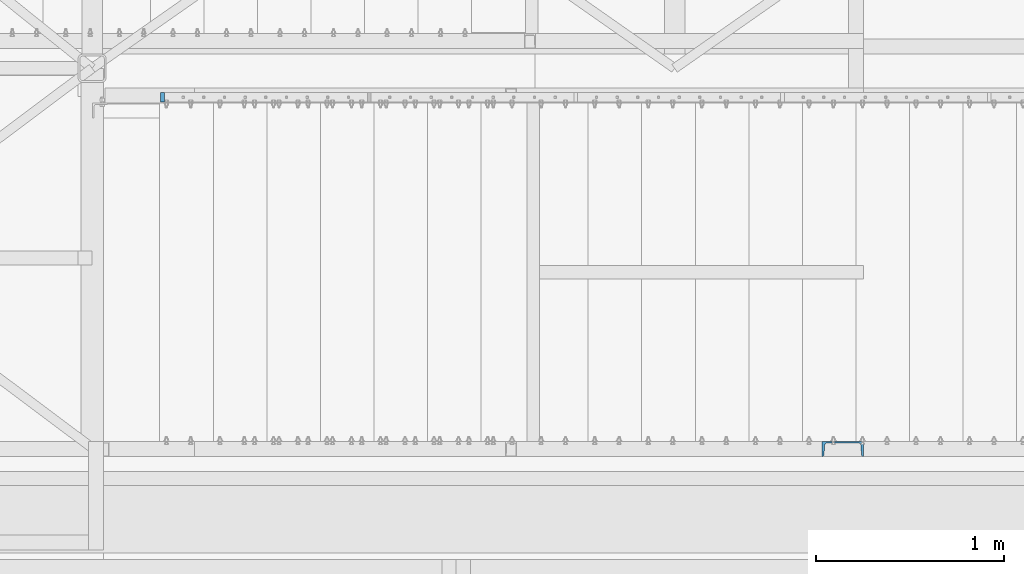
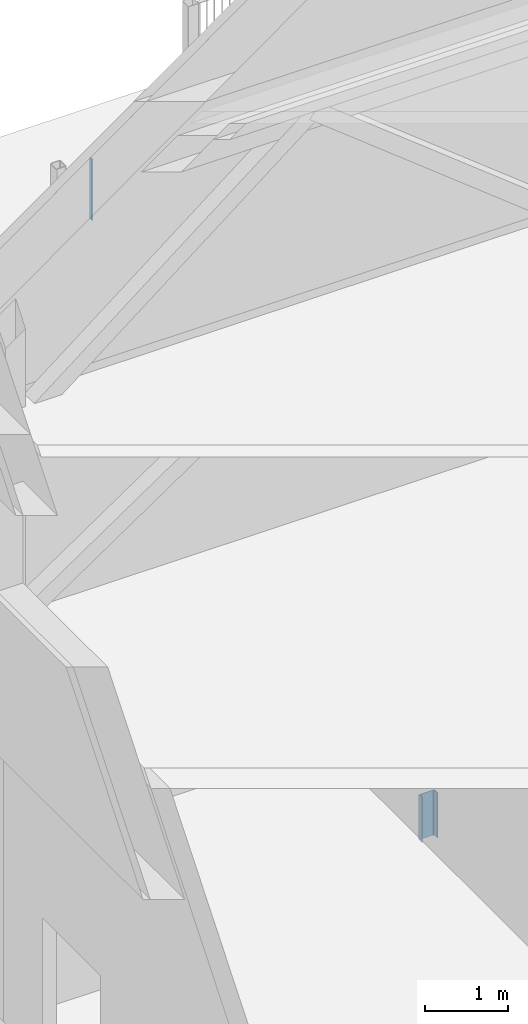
# One storey, part 17 of 78: 2 columns, 2 elements without a shape of their own.
"""IFC2X3 building model written with IfcOpenShell, lengths in millimetres."""

import ifcopenshell
import ifcopenshell.guid

model = None  # the IFC model being written
_history = None  # IfcOwnerHistory: only IFC2X3 demands one
_inside = {}  # id of a spatial element -> (the spatial element, [elements in it])
_under = {}  # id of a project, library or spatial element -> (it, [spatial elements below it])
_declared = {}  # id of a project -> (the project, [libraries it declares])
_typed = {}  # id of a type object -> (the type object, [elements of that type])
_made_of = {}  # id of a material, layer set ... -> (it, [elements and type objects made of it])


def new_model(schema):
    """Start an empty IFC model of exactly this schema.

    Asked for "IFC4X3", IfcOpenShell would pick the latest addendum, in which some entities
    have other attributes; the version numbers below select the first issue.
    IFC2X3 requires an IfcOwnerHistory on every rooted entity: one is made here for all.
    """
    global model, _history
    if schema == "IFC4X3":
        model = ifcopenshell.file(schema_version=(4, 3, 0, 0))
    else:
        model = ifcopenshell.file(schema=schema)
    _inside.clear()
    _under.clear()
    _declared.clear()
    _typed.clear()
    _made_of.clear()
    _history = None
    if model.schema == "IFC2X3":
        org = make("IfcOrganization", Name="unknown")
        user = make(
            "IfcPersonAndOrganization",
            ThePerson=make("IfcPerson", FamilyName="unknown"),
            TheOrganization=org,
        )
        app = make(
            "IfcApplication",
            ApplicationDeveloper=org,
            Version="unknown",
            ApplicationFullName="unknown",
            ApplicationIdentifier="unknown",
        )
        _history = make(
            "IfcOwnerHistory",
            OwningUser=user,
            OwningApplication=app,
            ChangeAction="ADDED",
            CreationDate=0,
        )
    return model


def make(cls, **values):
    """One entity of the class cls with the attributes given. An attribute that is None is left unset."""
    return model.create_entity(
        cls, **{name: value for name, value in values.items() if value is not None}
    )


def rooted(cls, **values):
    """An entity with a GlobalId (a new one), such as an element, a storey or a relation."""
    return make(cls, GlobalId=ifcopenshell.guid.new(), OwnerHistory=_history, **values)


def si_unit(unit_type, name, prefix=None):
    """IfcSIUnit, for example si_unit("LENGTHUNIT", "METRE", prefix="MILLI")."""
    return make("IfcSIUnit", UnitType=unit_type, Prefix=prefix, Name=name)


def assignment(units):
    """IfcUnitAssignment: the units of a project."""
    return None if units is None else make("IfcUnitAssignment", Units=units)


def point(xyz):
    """IfcCartesianPoint."""
    return None if xyz is None else make("IfcCartesianPoint", Coordinates=xyz)


def direction(xyz):
    """IfcDirection."""
    return None if xyz is None else make("IfcDirection", DirectionRatios=xyz)


def frame(location, z_axis=None, x_axis=None):
    """IfcAxis2Placement3D, a coordinate frame: its origin and axes. An axis left out is left unset."""
    return make(
        "IfcAxis2Placement3D",
        Location=point(location),
        Axis=direction(z_axis),
        RefDirection=direction(x_axis),
    )


def frame_2d(location, x_axis=None):
    """IfcAxis2Placement2D, a coordinate frame in the plane: its origin and x axis."""
    return make(
        "IfcAxis2Placement2D", Location=point(location), RefDirection=direction(x_axis)
    )


def origin_with_axes():
    """The frame at (0, 0, 0) with the z axis (0, 0, 1) and the x axis (1, 0, 0) written out."""
    return frame((0.0, 0.0, 0.0), z_axis=(0.0, 0.0, 1.0), x_axis=(1.0, 0.0, 0.0))


def origin_2d_with_axis():
    """The frame at (0, 0) in the plane with the x axis (1, 0) written out."""
    return frame_2d((0.0, 0.0), x_axis=(1.0, 0.0))


def place(relative_to, where):
    """IfcLocalPlacement: puts the frame where relative to a parent placement (None: the world)."""
    return make(
        "IfcLocalPlacement", PlacementRelTo=relative_to, RelativePlacement=where
    )


def context(
    kind, dimensions, precision=None, world=None, true_north=None, identifier=None
):
    """IfcGeometricRepresentationContext, for example the 3D "Model" context."""
    return make(
        "IfcGeometricRepresentationContext",
        ContextIdentifier=identifier,
        ContextType=kind,
        CoordinateSpaceDimension=dimensions,
        Precision=precision,
        WorldCoordinateSystem=world,
        TrueNorth=true_north,
    )


def subcontext(parent, identifier, kind, view, scale=None):
    """IfcGeometricRepresentationSubContext, for example "Body" below "Model"."""
    return make(
        "IfcGeometricRepresentationSubContext",
        ContextIdentifier=identifier,
        ContextType=kind,
        ParentContext=parent,
        TargetScale=scale,
        TargetView=view,
    )


def project(units=None, contexts=None):
    """IfcProject with its units and contexts."""
    return rooted(
        "IfcProject",
        Name="project",
        RepresentationContexts=contexts,
        UnitsInContext=assignment(units),
    )


def spatial(cls, under=None, at=None, **own):
    """A site, building, storey or space (cls), placed at a placement, below another one or the project."""
    s = rooted(cls, ObjectPlacement=at, **own)
    if under is not None:
        _under.setdefault(under.id(), (under, []))[1].append(s)
    return s


def profile(cls, at=None, kind="AREA", **sizes):
    """A parametric profile (cls). Its sizes go by their IFC names, for example OverallWidth=200.0."""
    return make(cls, ProfileType=kind, Position=at, **sizes)


def rectangle(**sizes):
    """IfcRectangleProfileDef."""
    return profile("IfcRectangleProfileDef", **sizes)


def u_section(**sizes):
    """IfcUShapeProfileDef."""
    return profile("IfcUShapeProfileDef", **sizes)


def extrude(swept, where, along, depth):
    """IfcExtrudedAreaSolid: the profile swept, set in the frame where, extruded along a direction by depth."""
    return make(
        "IfcExtrudedAreaSolid",
        SweptArea=swept,
        Position=where,
        ExtrudedDirection=direction(along),
        Depth=depth,
    )


def shape(context_of_items, identifier, shape_type, items):
    """IfcShapeRepresentation: the items that make up one representation, for example the "Body"."""
    return make(
        "IfcShapeRepresentation",
        ContextOfItems=context_of_items,
        RepresentationIdentifier=identifier,
        RepresentationType=shape_type,
        Items=items,
    )


def material(Name=None, Category=None):
    """IfcMaterial."""
    return make("IfcMaterial", Name=Name, Category=Category)


def made_of(thing, what):
    """Note that an element or type object is made of a material, layer set ...; save() writes the relation."""
    if what is not None:
        _made_of.setdefault(what.id(), (what, []))[1].append(thing)
    return thing


def type_object(cls, material=None, **own):
    """A type object (cls), such as IfcWallType, which elements share."""
    return made_of(rooted(cls, **own), material)


def element(
    cls,
    number,
    at=None,
    inside=None,
    cuts=None,
    type_object=None,
    material=None,
    context=None,
    identifier="Body",
    shape_type=None,
    held_by="IfcProductDefinitionShape",
    body=None,
    shapes=None,
    **own,
):
    """One element of the class cls, such as IfcWall. Its Tag is "e" and its number.

    at: its placement. inside: the storey or other place that contains it. cuts: it is an
    opening in that element (IfcRelVoidsElement). A single representation is given by context,
    identifier, shape_type and body (its items); several are given by shapes. held_by: the class
    of the entity that holds the representations. save() writes the other relations.
    """
    e = rooted(cls, Tag="e%d" % number, ObjectPlacement=at, **own)
    if body is not None:
        shapes = [shape(context, identifier, shape_type, body)]
    if shapes is not None:
        e.Representation = make(held_by, Representations=shapes)
    if inside is not None:
        _inside.setdefault(inside.id(), (inside, []))[1].append(e)
    if cuts is not None:
        rooted(
            "IfcRelVoidsElement", RelatingBuildingElement=cuts, RelatedOpeningElement=e
        )
    if type_object is not None:
        _typed.setdefault(type_object.id(), (type_object, []))[1].append(e)
    return made_of(e, material)


def aggregate(whole, parts):
    """IfcRelAggregates: a whole, such as a stair, and the parts it consists of."""
    return rooted("IfcRelAggregates", RelatingObject=whole, RelatedObjects=parts)


def save(model, path):
    """Write the relations noted so far, then the file.

    IfcRelAggregates (storeys below a building ...), IfcRelContainedInSpatialStructure (elements
    in a storey), IfcRelDefinesByType, IfcRelAssociatesMaterial and IfcRelDeclares: one each for
    every whole, place, type object, material and project.
    """
    for whole, parts in _under.values():
        aggregate(whole, parts)
    for where, things in _inside.values():
        rooted(
            "IfcRelContainedInSpatialStructure",
            RelatedElements=things,
            RelatingStructure=where,
        )
    for kind, things in _typed.values():
        rooted("IfcRelDefinesByType", RelatedObjects=things, RelatingType=kind)
    for what, things in _made_of.values():
        rooted("IfcRelAssociatesMaterial", RelatedObjects=things, RelatingMaterial=what)
    for by, libraries in _declared.values():
        rooted("IfcRelDeclares", RelatingContext=by, RelatedDefinitions=libraries)
    model.write(path)


model = new_model("IFC2X3")

# Units and contexts
model_context = context("Model", 3, precision=1e-05, world=origin_with_axes())
body_context = subcontext(model_context, "Body", "Model", "MODEL_VIEW")
ifc_project = project(units=[si_unit("LENGTHUNIT", "METRE", prefix="MILLI"), si_unit("AREAUNIT", "SQUARE_METRE"), si_unit("VOLUMEUNIT", "CUBIC_METRE"), si_unit("MASSUNIT", "GRAM", prefix="KILO"), si_unit("TIMEUNIT", "SECOND"), si_unit("PLANEANGLEUNIT", "RADIAN"), si_unit("SOLIDANGLEUNIT", "STERADIAN"), si_unit("THERMODYNAMICTEMPERATUREUNIT", "DEGREE_CELSIUS"), si_unit("LUMINOUSINTENSITYUNIT", "LUMEN")], contexts=[model_context])

# Site, building, storey
site_placement = place(None, origin_with_axes())
site = spatial("IfcSite", under=ifc_project, at=site_placement, Name="Site", CompositionType="ELEMENT")
building_placement = place(site_placement, origin_with_axes())
building = spatial("IfcBuilding", under=site, at=building_placement, Name="Undefined", CompositionType="ELEMENT")
storey_placement = place(building_placement, origin_with_axes())
storey = spatial("IfcBuildingStorey", under=building, at=storey_placement, Name="Undefined", CompositionType="ELEMENT", Elevation=0.0)

# Assembly, column
assembly_1_placement = place(storey_placement, origin_with_axes())
assembly_1 = element("IfcElementAssembly", 1, at=assembly_1_placement, inside=storey, Name="MAIN_COURANTE", AssemblyPlace="NOTDEFINED", PredefinedType="RIGID_FRAME")
ifc_material_1 = material(Name="STEEL/S235JR")
column_type_1 = type_object("IfcColumnType", Name="PL20*50", PredefinedType="NOTDEFINED")
column_1_placement = place(assembly_1_placement, frame((-4327.00571560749, 30592.9999997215, 156858.011311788), z_axis=(0.0, 0.0, 1.0), x_axis=(0.0, -1.0, 0.0)))
column_1 = element("IfcColumn", 2, at=column_1_placement, type_object=column_type_1, material=ifc_material_1, Name="MONTANT", ObjectType="PL20*50", context=body_context, shape_type="SweptSolid", body=[
    extrude(rectangle(XDim=20.0, YDim=50.0, at=origin_2d_with_axis()), frame((0.0, 0.0, 900.0), z_axis=(0.0, 0.0, -1.0), x_axis=(0.0, 1.0, 0.0)), (0.0, 0.0, 1.0), 900.0),
])
aggregate(assembly_1, [column_1])

assembly_2_placement = place(storey_placement, origin_with_axes())
assembly_2 = element("IfcElementAssembly", 3, at=assembly_2_placement, inside=storey, Name="POTEAU", AssemblyPlace="NOTDEFINED", PredefinedType="RIGID_FRAME")
ifc_material_2 = material(Name="STEEL/S275JR")
column_type_2 = type_object("IfcColumnType", Name="UPN220", PredefinedType="NOTDEFINED")
column_2_placement = place(assembly_2_placement, frame((-706.429999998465, 28722.9999999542, 147591.0), z_axis=(0.0, 0.0, 1.0), x_axis=(-1.0, 0.0, 0.0)))
column_2 = element("IfcColumn", 4, at=column_2_placement, type_object=column_type_2, material=ifc_material_2, Name="POTEAU", ObjectType="UPN220", context=body_context, shape_type="SweptSolid", body=[
    extrude(u_section(Depth=220.0, FlangeWidth=80.0, WebThickness=9.0, FlangeThickness=12.5, FilletRadius=12.5, EdgeRadius=6.5, FlangeSlope=0.0798299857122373, at=origin_2d_with_axis()), frame((0.0, 0.0, 665.040000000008), z_axis=(0.0, 0.0, -1.0), x_axis=(0.0, 1.0, 0.0)), (0.0, 0.0, 1.0), 665.04),
])
aggregate(assembly_2, [column_2])

save(model, "model.ifc")
